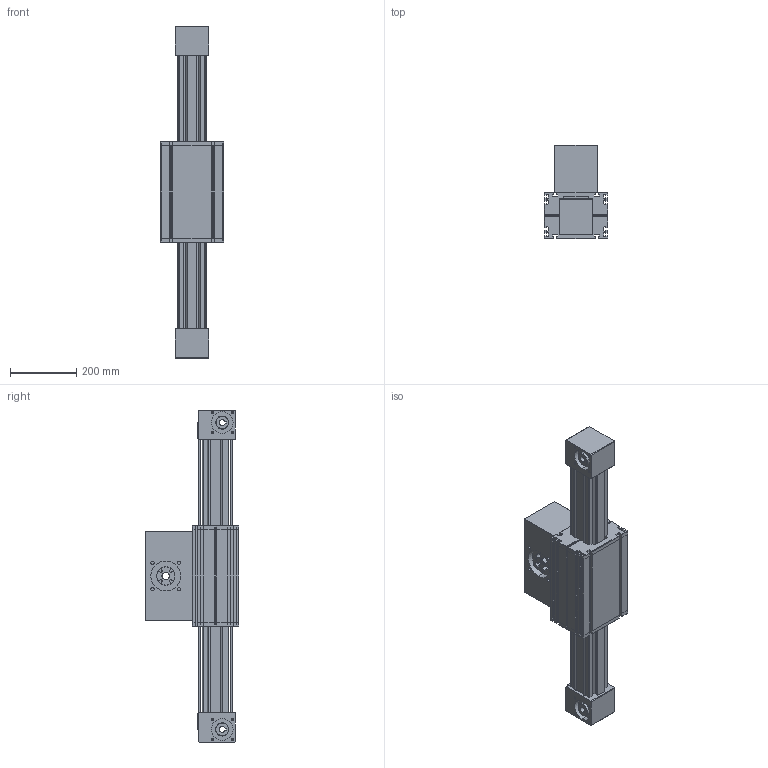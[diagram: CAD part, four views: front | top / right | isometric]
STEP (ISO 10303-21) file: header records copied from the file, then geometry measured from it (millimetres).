
FILE_DESCRIPTION (( 'STEP AP214' ), '1' );
FILE_NAME ('ELZT80S.STEP', '2022-07-19T13:07:40', ( '' ), ( '' ), 'SwSTEP 2.0', 'SolidWorks 2020', '' );
FILE_SCHEMA (( 'AUTOMOTIVE_DESIGN' ));
Length unit declared in the file: millimetre
Products named in the file (5): timing belt reverse unit ^ELZT80S_coupling claw pos.1; timing belt reverse unit carriage  ^ELZT80S_coupling claw pos.2; carriage ^ELZT80S_carriage version 0; profile^ELZT80S_0; ELZT80S
Assembly tree (6 placements, depth 2):
  ELZT80S
    profile^ELZT80S_0
    carriage ^ELZT80S_carriage version 0  x2
    timing belt reverse unit carriage  ^ELZT80S_coupling claw pos.2
    timing belt reverse unit ^ELZT80S_coupling claw pos.1  x2
Bounding box: 190 x 282 x 1000 mm (x, y, z)
Volume: 16899969.9 mm3; surface area: 1621136 mm2
Topology: 16 solids, 16 shells, 918 faces, 2506 edges, 1622 vertices
Faces by surface type: plane 621, cylinder 235, cone 42, torus 16, sphere 4
Entity records: 17327 total; most frequent: CARTESIAN_POINT 2966, ORIENTED_EDGE 2896, DIRECTION 2888, EDGE_CURVE 1448, VECTOR 1112, LINE 1112, VERTEX_POINT 950, AXIS2_PLACEMENT_3D 888
